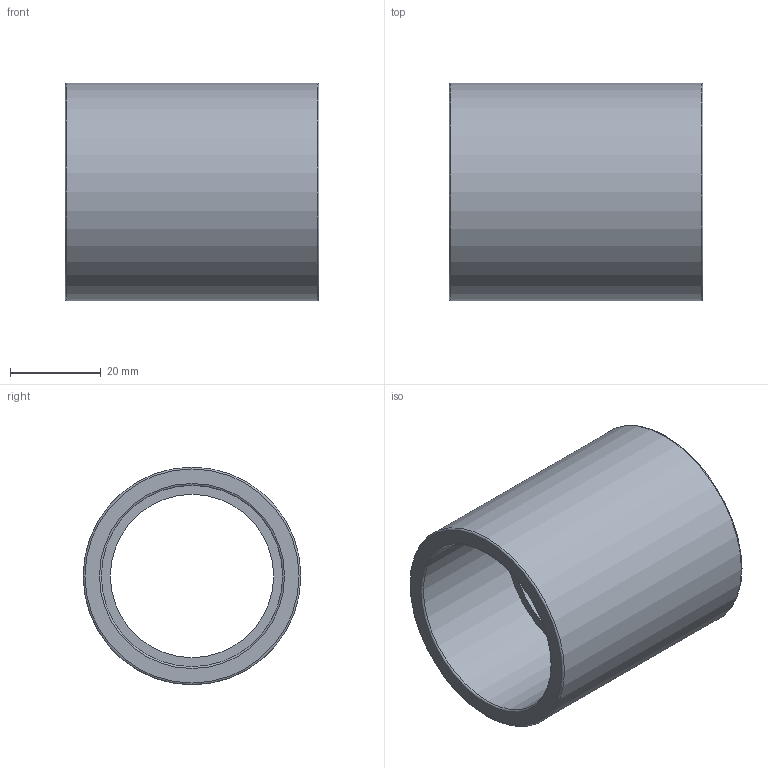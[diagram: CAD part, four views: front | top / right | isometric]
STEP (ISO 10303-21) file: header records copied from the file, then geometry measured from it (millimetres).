
FILE_DESCRIPTION(/* description */ ('PLASSON SOCKET PVC 40 - CEMENT'),/* implementation_level */ '2;1');
FILE_NAME(/* name */ 'C:\Dropbox\KIMPROJECTS-Inventor\99-16-3568-Processing\PVC Catalog 2017\050100\050100040.ipt.stp',/* time_stamp */ '2017-12-07T15:51:23+02:00',/* author */ ('KIM'),/* organization */ (''),/* preprocessor_version */ 'ST-DEVELOPER v15.6',/* originating_system */ 'Autodesk Inventor 2015',/* authorisation */ '');
FILE_SCHEMA (('AUTOMOTIVE_DESIGN { 1 0 10303 214 3 1 1 }'));
Length unit declared in the file: millimetre
Products named in the file (1): 050100040
Bounding box: 56 x 48 x 48 mm (x, y, z)
Volume: 31899.6 mm3; surface area: 16919.9 mm2
Topology: 1 solids, 1 shells, 12 faces, 20 edges, 12 vertices
Faces by surface type: torus 4, plane 4, cylinder 4
Full cylindrical faces by diameter (mm): 36 x1, 40 x2, 48 x1
Entity records: 272 total; most frequent: DIRECTION 50, CARTESIAN_POINT 37, AXIS2_PLACEMENT_3D 25, EDGE_LOOP 24, ORIENTED_EDGE 24, FACE_BOUND 12, FACE_OUTER_BOUND 12, CIRCLE 12
